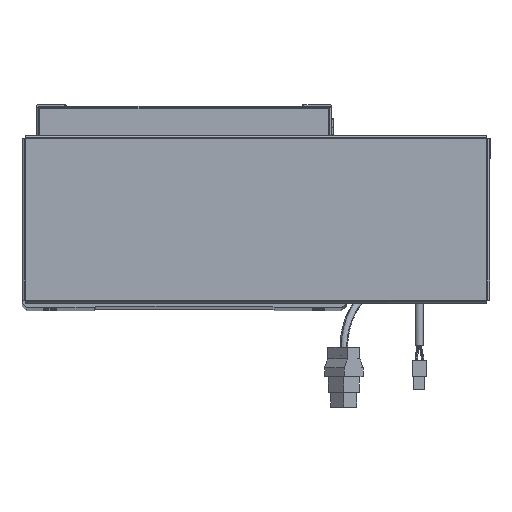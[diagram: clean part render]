
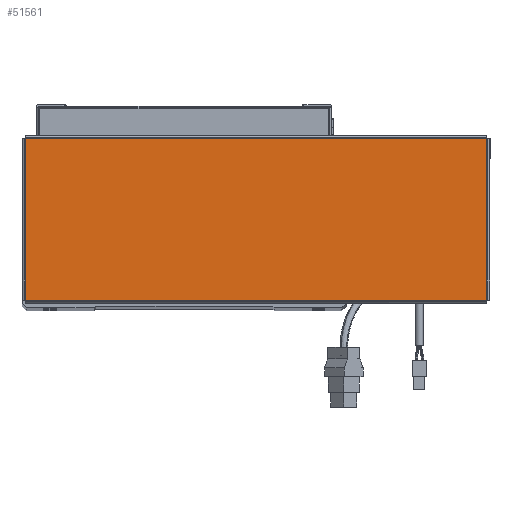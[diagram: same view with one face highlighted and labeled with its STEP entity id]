
A CAD part, top view. The second image highlights one B-rep face of the part: STEP entity #51561.
In plain terms, the highlighted planar face has unit normal (0, 0, 1).
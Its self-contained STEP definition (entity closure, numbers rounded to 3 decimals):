
#1297 = VECTOR ( 'NONE', #21033, 1000. ) ;
#2180 = CARTESIAN_POINT ( 'NONE',  ( 156.543, 54.763, 0. ) ) ;
#3088 = ORIENTED_EDGE ( 'NONE', *, *, #45271, .T. ) ;
#3092 = CARTESIAN_POINT ( 'NONE',  ( 156.513, 54.763, 0. ) ) ;
#4567 = LINE ( 'NONE', #60078, #65496 ) ;
#7915 = EDGE_CURVE ( 'NONE', #32046, #25378, #4567, .T. ) ;
#8817 = DIRECTION ( 'NONE',  ( 0., -1., 0. ) ) ;
#9633 = ORIENTED_EDGE ( 'NONE', *, *, #11362, .T. ) ;
#11362 = EDGE_CURVE ( 'NONE', #24499, #32046, #45181, .T. ) ;
#12511 = DIRECTION ( 'NONE',  ( -1., 0., 0. ) ) ;
#14973 = LINE ( 'NONE', #36271, #1297 ) ;
#15264 = LINE ( 'NONE', #52084, #43306 ) ;
#19858 = EDGE_CURVE ( 'NONE', #25378, #32831, #14973, .T. ) ;
#21033 = DIRECTION ( 'NONE',  ( 1., 0., 0. ) ) ;
#21310 = DIRECTION ( 'NONE',  ( 1., 0., 0. ) ) ;
#21919 = FACE_OUTER_BOUND ( 'NONE', #27594, .T. ) ;
#23433 = AXIS2_PLACEMENT_3D ( 'NONE', #41958, #57096, #21310 ) ;
#24499 = VERTEX_POINT ( 'NONE', #3092 ) ;
#25378 = VERTEX_POINT ( 'NONE', #30900 ) ;
#26064 = CARTESIAN_POINT ( 'NONE',  ( -156.513, 54.763, 0. ) ) ;
#26470 = PLANE ( 'NONE',  #23433 ) ;
#26560 = DIRECTION ( 'NONE',  ( 0., 1., 0. ) ) ;
#27594 = EDGE_LOOP ( 'NONE', ( #64235, #3088, #9633, #37515 ) ) ;
#30900 = CARTESIAN_POINT ( 'NONE',  ( -156.513, -54.763, 0. ) ) ;
#32046 = VERTEX_POINT ( 'NONE', #26064 ) ;
#32831 = VERTEX_POINT ( 'NONE', #55403 ) ;
#36271 = CARTESIAN_POINT ( 'NONE',  ( -156.543, -54.763, 0. ) ) ;
#37515 = ORIENTED_EDGE ( 'NONE', *, *, #7915, .T. ) ;
#41958 = CARTESIAN_POINT ( 'NONE',  ( 0., 0., 0. ) ) ;
#43306 = VECTOR ( 'NONE', #26560, 1000. ) ;
#44352 = VECTOR ( 'NONE', #12511, 1000. ) ;
#45181 = LINE ( 'NONE', #2180, #44352 ) ;
#45271 = EDGE_CURVE ( 'NONE', #32831, #24499, #15264, .T. ) ;
#51561 = ADVANCED_FACE ( 'NONE', ( #21919 ), #26470, .T. ) ;
#52084 = CARTESIAN_POINT ( 'NONE',  ( 156.513, -54.793, 0. ) ) ;
#55403 = CARTESIAN_POINT ( 'NONE',  ( 156.513, -54.763, 0. ) ) ;
#57096 = DIRECTION ( 'NONE',  ( 0., 0., 1. ) ) ;
#60078 = CARTESIAN_POINT ( 'NONE',  ( -156.513, 54.793, 0. ) ) ;
#64235 = ORIENTED_EDGE ( 'NONE', *, *, #19858, .T. ) ;
#65496 = VECTOR ( 'NONE', #8817, 1000. ) ;
